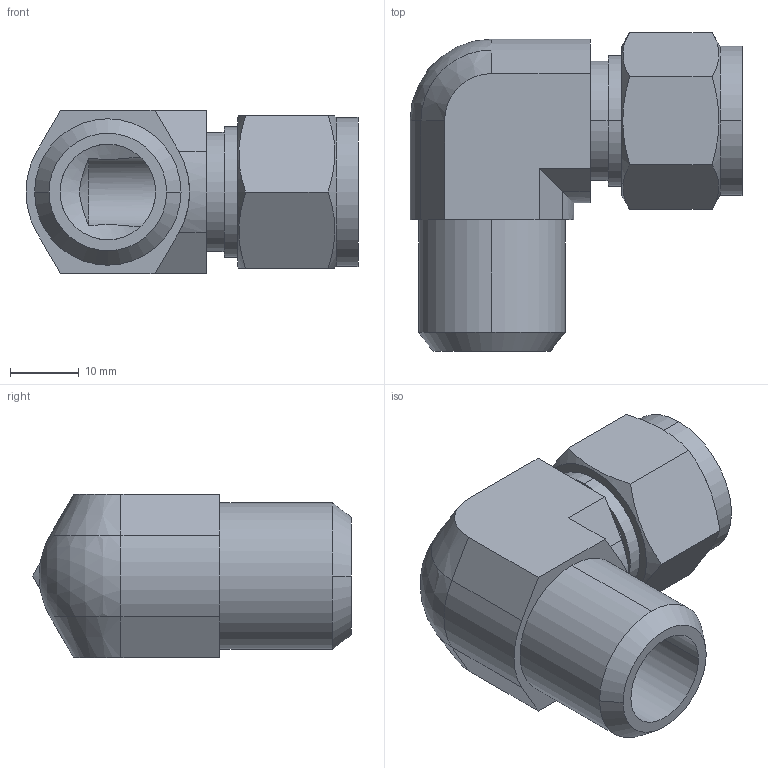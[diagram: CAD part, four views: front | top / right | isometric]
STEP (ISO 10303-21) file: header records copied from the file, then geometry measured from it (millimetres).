
FILE_DESCRIPTION (( 'STEP AP203' ), '1' );
FILE_NAME ('DLB 08-08 SS.STEP', '2009-09-08T06:39:51', ( ' ' ), ( '' ), 'SwSTEP 2.0', 'SolidWorks 2008', '' );
FILE_SCHEMA (( 'CONFIG_CONTROL_DESIGN' ));
Length unit declared in the file: millimetre
Products named in the file (1): DLB 08-08 SS
Bounding box: 48.3 x 46.33 x 23.8 mm (x, y, z)
Volume: 19112.2 mm3; surface area: 8770 mm2
Topology: 1 solids, 1 shells, 52 faces, 129 edges, 83 vertices
Faces by surface type: plane 23, cylinder 18, cone 10, sphere 1
Entity records: 1790 total; most frequent: CARTESIAN_POINT 490, ORIENTED_EDGE 254, DIRECTION 252, EDGE_CURVE 127, AXIS2_PLACEMENT_3D 96, VERTEX_POINT 82, VECTOR 60, LINE 60
